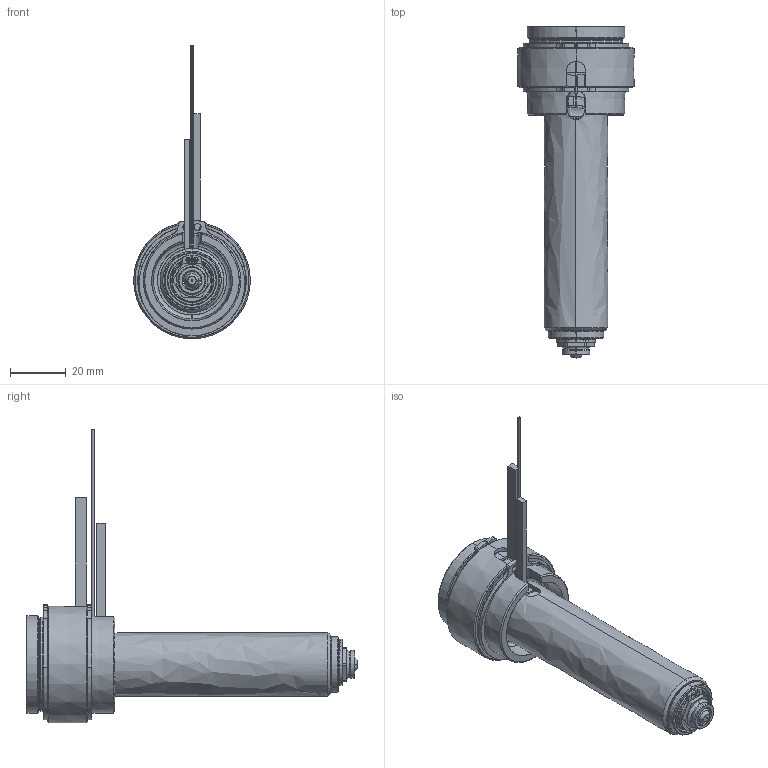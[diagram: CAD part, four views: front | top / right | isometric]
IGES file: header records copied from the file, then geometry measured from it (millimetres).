
Start section: SolidWorks IGES file using analytic representation for surfaces
Global section: file name: C:\Documents and Settings\ws-20\Desktop\TEM\UGER3552-S-A-1 [Øb-0.70  ØC-7.0].IGS; native system: SolidWorks 2012; preprocessor: SolidWorks 2012; author: ws-20; date: 120410.100736; units: millimetre
Bounding box: 42 x 119.4 x 105.6 mm (x, y, z)
Surface area: 38420.2 mm2 (no closed solid volume)
Topology: 0 solids, 0 shells, 209 faces, 3604 edges, 3604 vertices
Faces by surface type: revolution 134, bspline 75
